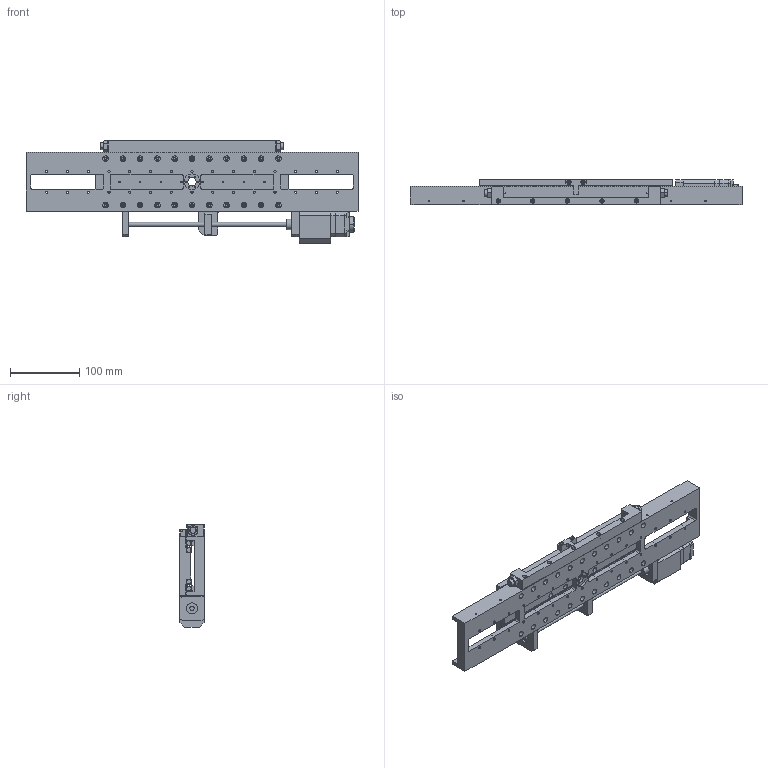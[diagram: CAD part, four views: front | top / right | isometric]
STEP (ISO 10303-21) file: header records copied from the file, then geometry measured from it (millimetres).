
FILE_DESCRIPTION (( 'STEP AP214' ), '1' );
FILE_NAME ('VSM17-X-200-HR-LS.STEP', '2022-12-15T16:13:06', ( '' ), ( '' ), 'SwSTEP 2.0', 'SolidWorks 2022', '' );
FILE_SCHEMA (( 'AUTOMOTIVE_DESIGN' ));
Length unit declared in the file: millimetre
Products named in the file (13): Simplified Motor Gearbox; CRW3_275C35SL_7; Simplified VSM17-X LS Actuator; Simplified VSM17-X-200 Carriage; VSM17-X-200-HR-LS; Simplified Limit Switch; VSM17-X-200 Limit switch mounting block; Simplified Drivetrain_VSM17-X-200; Simplified Leadscrew Nut; Simplified Motor; 3-8 UNF Nut; Simplified VSM17-X-200 Base V2; Simplified Gearbox
Assembly tree (17 placements, depth 3):
  VSM17-X-200-HR-LS
    Simplified VSM17-X-200 Base V2
    CRW3_275C35SL_7  x4
    Simplified VSM17-X-200 Carriage
    Simplified Drivetrain_VSM17-X-200
    Simplified Leadscrew Nut
    Simplified VSM17-X LS Actuator
    VSM17-X-200 Limit switch mounting block
    Simplified Limit Switch  x2
    3-8 UNF Nut  x2
    Simplified Motor Gearbox
      Simplified Gearbox
      Simplified Motor
Bounding box: 480 x 36 x 148.75 mm (x, y, z)
Volume: 945929.6 mm3; surface area: 295934.8 mm2
Topology: 16 solids, 16 shells, 1380 faces, 3470 edges, 2207 vertices
Faces by surface type: cylinder 730, plane 412, cone 218, torus 20
Entity records: 34411 total; most frequent: DIRECTION 5643, CARTESIAN_POINT 5374, ORIENTED_EDGE 4888, EDGE_CURVE 2444, AXIS2_PLACEMENT_3D 2229, VERTEX_POINT 1600, EDGE_LOOP 1390, CIRCLE 1236
